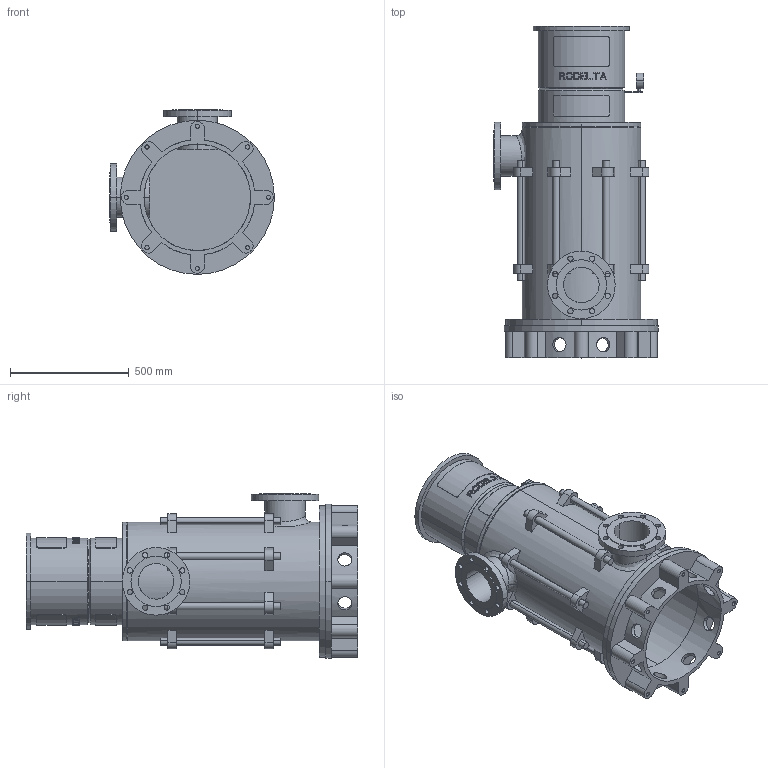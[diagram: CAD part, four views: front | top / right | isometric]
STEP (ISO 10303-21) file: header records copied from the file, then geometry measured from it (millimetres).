
FILE_DESCRIPTION((''),'2;1');
FILE_NAME('LS6_3TR_0GR_PN16_TOT_30KW','2025-10-23T11:48:11',('Lyritlocal'),(''),'CREO PARAMETRIC BY PTC INC, 2022014','CREO PARAMETRIC BY PTC INC, 2022014','');
FILE_SCHEMA(('CONFIG_CONTROL_DESIGN'));
Length unit declared in the file: millimetre
Products named in the file (1): LS6_3TR_0GR_PN16_TOT_30KW
Bounding box: 695 x 1399 x 695 mm (x, y, z)
Volume: 45457662.3 mm3; surface area: 6032135.1 mm2
Topology: 3 solids, 11 shells, 732 faces, 1891 edges, 1258 vertices
Faces by surface type: plane 438, cylinder 274, cone 12, bspline 8
Entity records: 24356 total; most frequent: CARTESIAN_POINT 6528, ORIENTED_EDGE 3750, DIRECTION 3537, EDGE_CURVE 1891, AXIS2_PLACEMENT_3D 1341, VERTEX_POINT 1258, EDGE_LOOP 893, VECTOR 855
